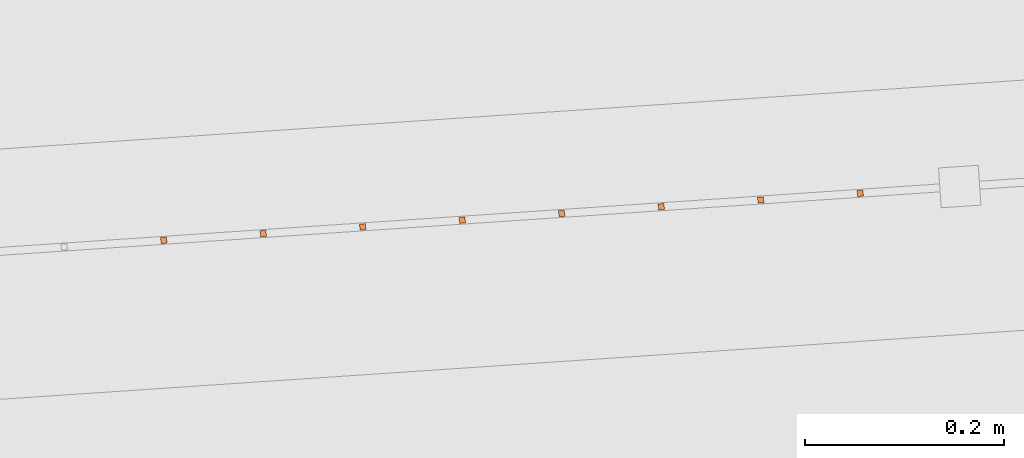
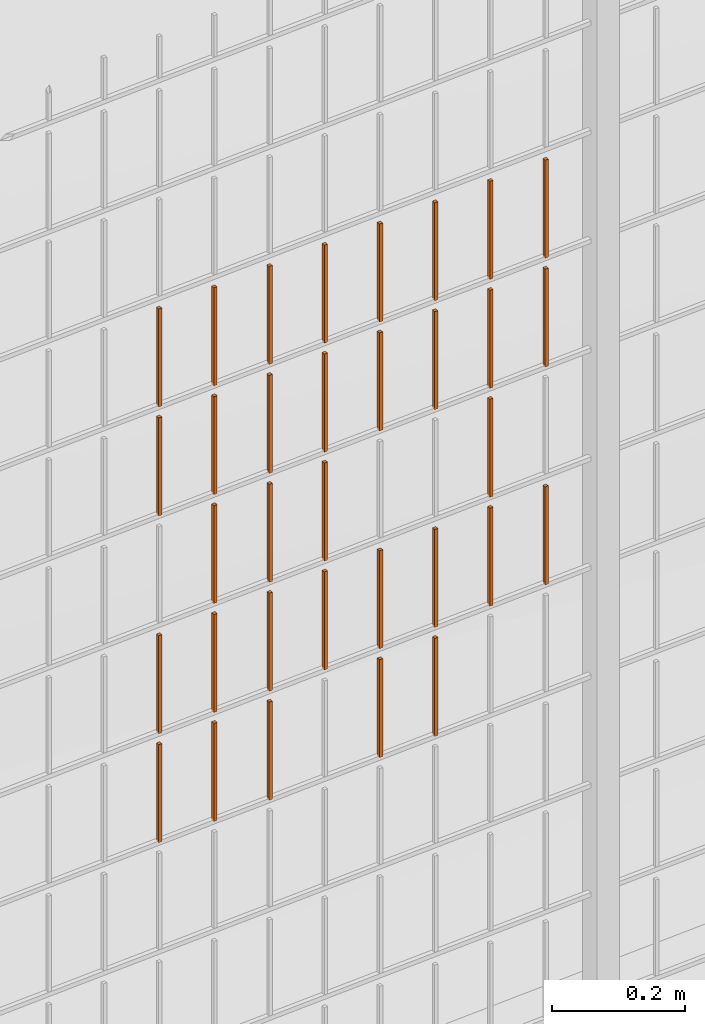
# One storey, part 393 of 1809: 33 proxies, 1 element without a shape of its own.
"""IFC2X3 building model written with IfcOpenShell, lengths in millimetres."""

import ifcopenshell
import ifcopenshell.guid

model = None  # the IFC model being written
_history = None  # IfcOwnerHistory: only IFC2X3 demands one
_inside = {}  # id of a spatial element -> (the spatial element, [elements in it])
_under = {}  # id of a project, library or spatial element -> (it, [spatial elements below it])
_declared = {}  # id of a project -> (the project, [libraries it declares])
_typed = {}  # id of a type object -> (the type object, [elements of that type])
_made_of = {}  # id of a material, layer set ... -> (it, [elements and type objects made of it])


def new_model(schema):
    """Start an empty IFC model of exactly this schema.

    Asked for "IFC4X3", IfcOpenShell would pick the latest addendum, in which some entities
    have other attributes; the version numbers below select the first issue.
    IFC2X3 requires an IfcOwnerHistory on every rooted entity: one is made here for all.
    """
    global model, _history
    if schema == "IFC4X3":
        model = ifcopenshell.file(schema_version=(4, 3, 0, 0))
    else:
        model = ifcopenshell.file(schema=schema)
    _inside.clear()
    _under.clear()
    _declared.clear()
    _typed.clear()
    _made_of.clear()
    _history = None
    if model.schema == "IFC2X3":
        org = make("IfcOrganization", Name="unknown")
        user = make(
            "IfcPersonAndOrganization",
            ThePerson=make("IfcPerson", FamilyName="unknown"),
            TheOrganization=org,
        )
        app = make(
            "IfcApplication",
            ApplicationDeveloper=org,
            Version="unknown",
            ApplicationFullName="unknown",
            ApplicationIdentifier="unknown",
        )
        _history = make(
            "IfcOwnerHistory",
            OwningUser=user,
            OwningApplication=app,
            ChangeAction="ADDED",
            CreationDate=0,
        )
    return model


def make(cls, **values):
    """One entity of the class cls with the attributes given. An attribute that is None is left unset."""
    return model.create_entity(
        cls, **{name: value for name, value in values.items() if value is not None}
    )


def entity(cls, *values):
    """Any entity or typed value of the class cls, its attributes in the order of the schema. None: left unset."""
    e = model.create_entity(cls)
    for i, value in enumerate(values):
        if value is not None:
            e[i] = value
    return e


def rooted(cls, **values):
    """An entity with a GlobalId (a new one), such as an element, a storey or a relation."""
    return make(cls, GlobalId=ifcopenshell.guid.new(), OwnerHistory=_history, **values)


def si_unit(unit_type, name, prefix=None):
    """IfcSIUnit, for example si_unit("LENGTHUNIT", "METRE", prefix="MILLI")."""
    return make("IfcSIUnit", UnitType=unit_type, Prefix=prefix, Name=name)


def converted_unit(unit_type, name, factor, base, dimensions=None, offset=None):
    """IfcConversionBasedUnit, such as the inch: factor (a typed value) times the base unit."""
    return make(
        "IfcConversionBasedUnit"
        if offset is None
        else "IfcConversionBasedUnitWithOffset",
        ConversionOffset=offset,
        Dimensions=None
        if dimensions is None
        else entity("IfcDimensionalExponents", *dimensions),
        UnitType=unit_type,
        Name=name,
        ConversionFactor=make(
            "IfcMeasureWithUnit", ValueComponent=factor, UnitComponent=base
        ),
    )


def derived_unit(unit_type, elements):
    """IfcDerivedUnit: a product of units, each with its exponent."""
    return make(
        "IfcDerivedUnit",
        Elements=[
            make("IfcDerivedUnitElement", Unit=unit, Exponent=power)
            for unit, power in elements
        ],
        UnitType=unit_type,
    )


def money_unit(currency):
    """IfcMonetaryUnit."""
    return make("IfcMonetaryUnit", Currency=currency)


def assignment(units):
    """IfcUnitAssignment: the units of a project."""
    return None if units is None else make("IfcUnitAssignment", Units=units)


def point(xyz):
    """IfcCartesianPoint."""
    return None if xyz is None else make("IfcCartesianPoint", Coordinates=xyz)


def direction(xyz):
    """IfcDirection."""
    return None if xyz is None else make("IfcDirection", DirectionRatios=xyz)


def frame(location, z_axis=None, x_axis=None):
    """IfcAxis2Placement3D, a coordinate frame: its origin and axes. An axis left out is left unset."""
    return make(
        "IfcAxis2Placement3D",
        Location=point(location),
        Axis=direction(z_axis),
        RefDirection=direction(x_axis),
    )


def origin_with_axes():
    """The frame at (0, 0, 0) with the z axis (0, 0, 1) and the x axis (1, 0, 0) written out."""
    return frame((0.0, 0.0, 0.0), z_axis=(0.0, 0.0, 1.0), x_axis=(1.0, 0.0, 0.0))


def place(relative_to, where):
    """IfcLocalPlacement: puts the frame where relative to a parent placement (None: the world)."""
    return make(
        "IfcLocalPlacement", PlacementRelTo=relative_to, RelativePlacement=where
    )


def context(
    kind, dimensions, precision=None, world=None, true_north=None, identifier=None
):
    """IfcGeometricRepresentationContext, for example the 3D "Model" context."""
    return make(
        "IfcGeometricRepresentationContext",
        ContextIdentifier=identifier,
        ContextType=kind,
        CoordinateSpaceDimension=dimensions,
        Precision=precision,
        WorldCoordinateSystem=world,
        TrueNorth=true_north,
    )


def subcontext(parent, identifier, kind, view, scale=None):
    """IfcGeometricRepresentationSubContext, for example "Body" below "Model"."""
    return make(
        "IfcGeometricRepresentationSubContext",
        ContextIdentifier=identifier,
        ContextType=kind,
        ParentContext=parent,
        TargetScale=scale,
        TargetView=view,
    )


def project(units=None, contexts=None):
    """IfcProject with its units and contexts."""
    return rooted(
        "IfcProject",
        Name="project",
        RepresentationContexts=contexts,
        UnitsInContext=assignment(units),
    )


def spatial(cls, under=None, at=None, **own):
    """A site, building, storey or space (cls), placed at a placement, below another one or the project."""
    s = rooted(cls, ObjectPlacement=at, **own)
    if under is not None:
        _under.setdefault(under.id(), (under, []))[1].append(s)
    return s


def faces_of(points, faces, orient=None, outer=None):
    """IfcFace entities. A face is a list of loops; a loop is a list of indices into points, from 0.

    orient and outer hold one flag for each loop. By default every Orientation is true, the
    first loop of a face is its IfcFaceOuterBound and the others are IfcFaceBound.
    """
    made = []
    for i, loops in enumerate(faces):
        bounds = []
        for j, loop in enumerate(loops):
            is_outer = j == 0 if outer is None else outer[i][j]
            bounds.append(
                make(
                    "IfcFaceOuterBound" if is_outer else "IfcFaceBound",
                    Bound=make("IfcPolyLoop", Polygon=[points[k] for k in loop]),
                    Orientation=True if orient is None else orient[i][j],
                )
            )
        made.append(make("IfcFace", Bounds=bounds))
    return made


def faceted_brep(points, faces, orient=None, outer=None, voids=None):
    """IfcFacetedBrep: a solid bounded by flat faces; with voids (closed shells), ...WithVoids."""
    shared = [point(p) for p in points]
    hull = make("IfcClosedShell", CfsFaces=faces_of(shared, faces, orient, outer))
    if voids is None:
        return make("IfcFacetedBrep", Outer=hull)
    return make(
        "IfcFacetedBrepWithVoids",
        Outer=hull,
        Voids=[
            make(cls, CfsFaces=faces_of(shared, fs, o, b)) for cls, fs, o, b in voids
        ],
    )


def shape(context_of_items, identifier, shape_type, items):
    """IfcShapeRepresentation: the items that make up one representation, for example the "Body"."""
    return make(
        "IfcShapeRepresentation",
        ContextOfItems=context_of_items,
        RepresentationIdentifier=identifier,
        RepresentationType=shape_type,
        Items=items,
    )


def source(mapping_origin, context_of_items, identifier, shape_type, items):
    """IfcRepresentationMap: a shape defined once, which mapped items show again and again."""
    return make(
        "IfcRepresentationMap",
        MappingOrigin=mapping_origin,
        MappedRepresentation=shape(context_of_items, identifier, shape_type, items),
    )


def transform(
    local_origin,
    x_axis=None,
    y_axis=None,
    z_axis=None,
    scale=None,
    scale2=None,
    scale3=None,
    uniform=True,
):
    """IfcCartesianTransformationOperator3D, or its non-uniform kind. x_axis, y_axis, z_axis: its Axis1, 2, 3."""
    if uniform:
        return make(
            "IfcCartesianTransformationOperator3D",
            Axis1=direction(x_axis),
            Axis2=direction(y_axis),
            LocalOrigin=point(local_origin),
            Scale=scale,
            Axis3=direction(z_axis),
        )
    return make(
        "IfcCartesianTransformationOperator3DnonUniform",
        Axis1=direction(x_axis),
        Axis2=direction(y_axis),
        LocalOrigin=point(local_origin),
        Scale=scale,
        Axis3=direction(z_axis),
        Scale2=scale2,
        Scale3=scale3,
    )


def mapped(mapping_source, mapping_target):
    """IfcMappedItem: shows the shape of a source again, moved by a transform."""
    return make(
        "IfcMappedItem", MappingSource=mapping_source, MappingTarget=mapping_target
    )


def material(Name=None, Category=None):
    """IfcMaterial."""
    return make("IfcMaterial", Name=Name, Category=Category)


def made_of(thing, what):
    """Note that an element or type object is made of a material, layer set ...; save() writes the relation."""
    if what is not None:
        _made_of.setdefault(what.id(), (what, []))[1].append(thing)
    return thing


def type_object(cls, material=None, **own):
    """A type object (cls), such as IfcWallType, which elements share."""
    return made_of(rooted(cls, **own), material)


def element(
    cls,
    number,
    at=None,
    inside=None,
    cuts=None,
    type_object=None,
    material=None,
    context=None,
    identifier="Body",
    shape_type=None,
    held_by="IfcProductDefinitionShape",
    body=None,
    shapes=None,
    **own,
):
    """One element of the class cls, such as IfcWall. Its Tag is "e" and its number.

    at: its placement. inside: the storey or other place that contains it. cuts: it is an
    opening in that element (IfcRelVoidsElement). A single representation is given by context,
    identifier, shape_type and body (its items); several are given by shapes. held_by: the class
    of the entity that holds the representations. save() writes the other relations.
    """
    e = rooted(cls, Tag="e%d" % number, ObjectPlacement=at, **own)
    if body is not None:
        shapes = [shape(context, identifier, shape_type, body)]
    if shapes is not None:
        e.Representation = make(held_by, Representations=shapes)
    if inside is not None:
        _inside.setdefault(inside.id(), (inside, []))[1].append(e)
    if cuts is not None:
        rooted(
            "IfcRelVoidsElement", RelatingBuildingElement=cuts, RelatedOpeningElement=e
        )
    if type_object is not None:
        _typed.setdefault(type_object.id(), (type_object, []))[1].append(e)
    return made_of(e, material)


def aggregate(whole, parts):
    """IfcRelAggregates: a whole, such as a stair, and the parts it consists of."""
    return rooted("IfcRelAggregates", RelatingObject=whole, RelatedObjects=parts)


def save(model, path):
    """Write the relations noted so far, then the file.

    IfcRelAggregates (storeys below a building ...), IfcRelContainedInSpatialStructure (elements
    in a storey), IfcRelDefinesByType, IfcRelAssociatesMaterial and IfcRelDeclares: one each for
    every whole, place, type object, material and project.
    """
    for whole, parts in _under.values():
        aggregate(whole, parts)
    for where, things in _inside.values():
        rooted(
            "IfcRelContainedInSpatialStructure",
            RelatedElements=things,
            RelatingStructure=where,
        )
    for kind, things in _typed.values():
        rooted("IfcRelDefinesByType", RelatedObjects=things, RelatingType=kind)
    for what, things in _made_of.values():
        rooted("IfcRelAssociatesMaterial", RelatedObjects=things, RelatingMaterial=what)
    for by, libraries in _declared.values():
        rooted("IfcRelDeclares", RelatingContext=by, RelatedDefinitions=libraries)
    model.write(path)


model = new_model("IFC2X3")

# Units and contexts
model_context = context("Model", 3, precision=0.01, world=origin_with_axes(), true_north=direction((0.0, 1.0)))
body_context = subcontext(model_context, "Body", "Model", "MODEL_VIEW")
ifc_project = project(units=[si_unit("LENGTHUNIT", "METRE", prefix="MILLI"), si_unit("AREAUNIT", "SQUARE_METRE"), si_unit("VOLUMEUNIT", "CUBIC_METRE"), converted_unit("PLANEANGLEUNIT", "DEGREE", entity("IfcPlaneAngleMeasure", 0.0174532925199), si_unit("PLANEANGLEUNIT", "RADIAN"), dimensions=[0, 0, 0, 0, 0, 0, 0]), si_unit("SOLIDANGLEUNIT", "STERADIAN"), money_unit("EUR"), converted_unit("TIMEUNIT", "Year", entity("IfcTimeMeasure", 31556926.0), si_unit("TIMEUNIT", "SECOND"), dimensions=[0, 0, 1, 0, 0, 0, 0]), si_unit("MASSUNIT", "GRAM", prefix="KILO"), si_unit("THERMODYNAMICTEMPERATUREUNIT", "DEGREE_CELSIUS"), si_unit("LUMINOUSINTENSITYUNIT", "LUMEN"), si_unit("ENERGYUNIT", "JOULE", prefix="MEGA"), derived_unit("THERMALCONDUCTANCEUNIT", [(si_unit("POWERUNIT", "WATT"), 1), (si_unit("LENGTHUNIT", "METRE"), -1), (si_unit("THERMODYNAMICTEMPERATUREUNIT", "KELVIN"), -1)]), derived_unit("SPECIFICHEATCAPACITYUNIT", [(si_unit("ENERGYUNIT", "JOULE"), 1), (si_unit("MASSUNIT", "GRAM", prefix="KILO"), -1), (si_unit("THERMODYNAMICTEMPERATUREUNIT", "KELVIN"), -1)]), derived_unit("MASSDENSITYUNIT", [(si_unit("MASSUNIT", "GRAM", prefix="KILO"), 1), (si_unit("VOLUMEUNIT", "CUBIC_METRE"), -1)])], contexts=[model_context])

# Site, building, storey
site_placement = place(None, origin_with_axes())
site = spatial("IfcSite", under=ifc_project, at=site_placement, Name="Politse- ja Piirivalveameti ning Päästeameti ühishoone", CompositionType="ELEMENT")
building_placement = place(site_placement, origin_with_axes())
building = spatial("IfcBuilding", under=site, at=building_placement, Name="Politse- ja Piirivalveameti ning Päästeameti ühishoone", CompositionType="ELEMENT")
storey_placement = place(building_placement, origin_with_axes())
storey = spatial("IfcBuildingStorey", under=building, at=storey_placement, Name="Esimene korrus", CompositionType="ELEMENT", Elevation=0.0)

# Proxies
building_element_proxy_type_1 = type_object("IfcBuildingElementProxyType", Name="Railing Type", PredefinedType="NOTDEFINED")
proxy_1_placement = place(storey_placement, frame((89252.001212, -29183.4766571, 203.661247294), z_axis=(0.0, 0.0, 1.0), x_axis=(1.0, 0.0, 0.0)))
proxy_1 = element("IfcBuildingElementProxy", 1, at=proxy_1_placement, inside=storey, type_object=building_element_proxy_type_1, Name="PIIRDEAED")
ifc_material = material(Name="ET-03_Raud")
building_element_proxy_type_2 = type_object("IfcBuildingElementProxyType", Name="IfcBuildingElementProxy", PredefinedType="NOTDEFINED")
shared_shape_1 = source(origin_with_axes(), body_context, "Body", "Brep", [
    faceted_brep([(3.0, 3.0, -0.000752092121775), (-3.0, 3.0, -0.000752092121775), (-3.0, 3.0, 179.99926046), (3.0, 3.0, 179.99926046), (3.0, -3.0, 0.000752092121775), (-3.0, -3.0, 0.000752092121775), (-3.0, -3.0, 180.000764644), (3.0, -3.0, 180.000764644)], [[[0, 1, 2, 3]], [[0, 4, 5, 1]], [[1, 5, 6, 2]], [[3, 2, 6, 7]], [[4, 0, 3, 7]], [[5, 4, 7, 6]]]),
])
proxy_2_placement = place(proxy_1_placement, frame((-12597.9815761, -18148.720874, 1424.068908), z_axis=(0.0, 0.0, 1.0), x_axis=(1.0, 0.0, 0.0)))
proxy_2 = element("IfcBuildingElementProxy", 2, at=proxy_2_placement, type_object=building_element_proxy_type_2, material=ifc_material, Name="BALUSTER - 001", context=body_context, shape_type="MappedRepresentation", body=[
    mapped(shared_shape_1, transform((0.0, 0.0, 0.0), x_axis=(-0.0673926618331, 0.997726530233, 0.0), y_axis=(-0.997726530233, -0.0673926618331, 0.0), z_axis=(0.0, 0.0, 1.0))),
])
shared_shape_2 = source(origin_with_axes(), body_context, "Body", "Brep", [
    faceted_brep([(3.0, 3.0, -0.000752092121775), (-3.0, 3.0, -0.000752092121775), (-3.0, 3.0, 179.99926046), (3.0, 3.0, 179.99926046), (3.0, -3.0, 0.000752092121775), (-3.0, -3.0, 0.000752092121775), (-3.0, -3.0, 180.000764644), (3.0, -3.0, 180.000764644)], [[[0, 1, 2, 3]], [[0, 4, 5, 1]], [[1, 5, 6, 2]], [[3, 2, 6, 7]], [[4, 0, 3, 7]], [[5, 4, 7, 6]]]),
])
proxy_3_placement = place(proxy_1_placement, frame((-12997.0721882, -18175.6779387, 623.968629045), z_axis=(0.0, 0.0, 1.0), x_axis=(1.0, 0.0, 0.0)))
proxy_3 = element("IfcBuildingElementProxy", 3, at=proxy_3_placement, type_object=building_element_proxy_type_2, material=ifc_material, Name="BALUSTER - 001", context=body_context, shape_type="MappedRepresentation", body=[
    mapped(shared_shape_2, transform((0.0, 0.0, 0.0), x_axis=(-0.0673926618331, 0.997726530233, 0.0), y_axis=(-0.997726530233, -0.0673926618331, 0.0), z_axis=(0.0, 0.0, 1.0))),
])
shared_shape_3 = source(origin_with_axes(), body_context, "Body", "Brep", [
    faceted_brep([(3.0, 3.0, -0.000752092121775), (-3.0, 3.0, -0.000752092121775), (-3.0, 3.0, 179.99926046), (3.0, 3.0, 179.99926046), (3.0, -3.0, 0.000752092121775), (-3.0, -3.0, 0.000752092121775), (-3.0, -3.0, 180.000764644), (3.0, -3.0, 180.000764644)], [[[0, 1, 2, 3]], [[0, 4, 5, 1]], [[1, 5, 6, 2]], [[3, 2, 6, 7]], [[4, 0, 3, 7]], [[5, 4, 7, 6]]]),
])
proxy_4_placement = place(proxy_1_placement, frame((-12398.4362701, -18135.2423416, 1224.11904747), z_axis=(0.0, 0.0, 1.0), x_axis=(1.0, 0.0, 0.0)))
proxy_4 = element("IfcBuildingElementProxy", 4, at=proxy_4_placement, type_object=building_element_proxy_type_2, material=ifc_material, Name="BALUSTER - 001", context=body_context, shape_type="MappedRepresentation", body=[
    mapped(shared_shape_3, transform((0.0, 0.0, 0.0), x_axis=(-0.0673926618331, 0.997726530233, 0.0), y_axis=(-0.997726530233, -0.0673926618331, 0.0), z_axis=(0.0, 0.0, 1.0))),
])
shared_shape_4 = source(origin_with_axes(), body_context, "Body", "Brep", [
    faceted_brep([(3.0, 3.0, -0.000752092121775), (-3.0, 3.0, -0.000752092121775), (-3.0, 3.0, 179.99926046), (3.0, 3.0, 179.99926046), (3.0, -3.0, 0.000752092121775), (-3.0, -3.0, 0.000752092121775), (-3.0, -3.0, 180.000764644), (3.0, -3.0, 180.000764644)], [[[0, 1, 2, 3]], [[0, 4, 5, 1]], [[1, 5, 6, 2]], [[3, 2, 6, 7]], [[4, 0, 3, 7]], [[5, 4, 7, 6]]]),
])
proxy_5_placement = place(proxy_1_placement, frame((-12597.9815761, -18148.720874, 824.068907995), z_axis=(0.0, 0.0, 1.0), x_axis=(1.0, 0.0, 0.0)))
proxy_5 = element("IfcBuildingElementProxy", 5, at=proxy_5_placement, type_object=building_element_proxy_type_2, material=ifc_material, Name="BALUSTER - 001", context=body_context, shape_type="MappedRepresentation", body=[
    mapped(shared_shape_4, transform((0.0, 0.0, 0.0), x_axis=(-0.0673926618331, 0.997726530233, 0.0), y_axis=(-0.997726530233, -0.0673926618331, 0.0), z_axis=(0.0, 0.0, 1.0))),
])
proxy_6_placement = place(proxy_1_placement, frame((-12597.9815761, -18148.720874, 1224.068908), z_axis=(0.0, 0.0, 1.0), x_axis=(1.0, 0.0, 0.0)))
proxy_6 = element("IfcBuildingElementProxy", 6, at=proxy_6_placement, type_object=building_element_proxy_type_2, material=ifc_material, Name="BALUSTER - 001", context=body_context, shape_type="MappedRepresentation", body=[
    mapped(shared_shape_4, transform((0.0, 0.0, 0.0), x_axis=(-0.0673926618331, 0.997726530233, 0.0), y_axis=(-0.997726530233, -0.0673926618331, 0.0), z_axis=(0.0, 0.0, 1.0))),
])
shared_shape_5 = source(origin_with_axes(), body_context, "Body", "Brep", [
    faceted_brep([(3.0, 3.0, -0.000752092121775), (-3.0, 3.0, -0.000752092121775), (-3.0, 3.0, 179.99926046), (3.0, 3.0, 179.99926046), (3.0, -3.0, 0.000752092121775), (-3.0, -3.0, 0.000752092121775), (-3.0, -3.0, 180.000764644), (3.0, -3.0, 180.000764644)], [[[0, 1, 2, 3]], [[0, 4, 5, 1]], [[1, 5, 6, 2]], [[3, 2, 6, 7]], [[4, 0, 3, 7]], [[5, 4, 7, 6]]]),
])
proxy_7_placement = place(proxy_1_placement, frame((-13096.8448412, -18182.4172049, 623.943559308), z_axis=(0.0, 0.0, 1.0), x_axis=(1.0, 0.0, 0.0)))
proxy_7 = element("IfcBuildingElementProxy", 7, at=proxy_7_placement, type_object=building_element_proxy_type_2, material=ifc_material, Name="BALUSTER - 001", context=body_context, shape_type="MappedRepresentation", body=[
    mapped(shared_shape_5, transform((0.0, 0.0, 0.0), x_axis=(-0.0673926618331, 0.997726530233, 0.0), y_axis=(-0.997726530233, -0.0673926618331, 0.0), z_axis=(0.0, 0.0, 1.0))),
])
shared_shape_6 = source(origin_with_axes(), body_context, "Body", "Brep", [
    faceted_brep([(3.0, 3.0, -0.000752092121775), (-3.0, 3.0, -0.000752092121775), (-3.0, 3.0, 179.99926046), (3.0, 3.0, 179.99926046), (3.0, -3.0, 0.000752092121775), (-3.0, -3.0, 0.000752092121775), (-3.0, -3.0, 180.000764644), (3.0, -3.0, 180.000764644)], [[[0, 1, 2, 3]], [[0, 4, 5, 1]], [[1, 5, 6, 2]], [[3, 2, 6, 7]], [[4, 0, 3, 7]], [[5, 4, 7, 6]]]),
])
proxy_8_placement = place(proxy_1_placement, frame((-12398.4362701, -18135.2423416, 824.11904747), z_axis=(0.0, 0.0, 1.0), x_axis=(1.0, 0.0, 0.0)))
proxy_8 = element("IfcBuildingElementProxy", 8, at=proxy_8_placement, type_object=building_element_proxy_type_2, material=ifc_material, Name="BALUSTER - 001", context=body_context, shape_type="MappedRepresentation", body=[
    mapped(shared_shape_6, transform((0.0, 0.0, 0.0), x_axis=(-0.0673926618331, 0.997726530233, 0.0), y_axis=(-0.997726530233, -0.0673926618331, 0.0), z_axis=(0.0, 0.0, 1.0))),
])
shared_shape_7 = source(origin_with_axes(), body_context, "Body", "Brep", [
    faceted_brep([(3.0, 3.0, -0.000752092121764), (-3.0, 3.0, -0.000752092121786), (-3.0, 3.0, 179.99926046), (3.0, 3.0, 179.99926046), (3.0, -3.0, 0.000752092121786), (-3.0, -3.0, 0.000752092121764), (-3.0, -3.0, 180.000764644), (3.0, -3.0, 180.000764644)], [[[0, 1, 2, 3]], [[0, 4, 5, 1]], [[1, 5, 6, 2]], [[3, 2, 6, 7]], [[4, 0, 3, 7]], [[5, 4, 7, 6]]]),
])
proxy_9_placement = place(proxy_1_placement, frame((-12498.2089231, -18141.9816078, 824.093977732), z_axis=(0.0, 0.0, 1.0), x_axis=(1.0, 0.0, 0.0)))
proxy_9 = element("IfcBuildingElementProxy", 9, at=proxy_9_placement, type_object=building_element_proxy_type_2, material=ifc_material, Name="BALUSTER - 001", context=body_context, shape_type="MappedRepresentation", body=[
    mapped(shared_shape_7, transform((0.0, 0.0, 0.0), x_axis=(-0.0673926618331, 0.997726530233, 0.0), y_axis=(-0.997726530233, -0.0673926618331, 0.0), z_axis=(0.0, 0.0, 1.0))),
])
proxy_10_placement = place(proxy_1_placement, frame((-12797.5268822, -18162.1994064, 824.01876852), z_axis=(0.0, 0.0, 1.0), x_axis=(1.0, 0.0, 0.0)))
proxy_10 = element("IfcBuildingElementProxy", 10, at=proxy_10_placement, type_object=building_element_proxy_type_2, material=ifc_material, Name="BALUSTER - 001", context=body_context, shape_type="MappedRepresentation", body=[
    mapped(shared_shape_7, transform((0.0, 0.0, 0.0), x_axis=(-0.0673926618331, 0.997726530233, 0.0), y_axis=(-0.997726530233, -0.0673926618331, 0.0), z_axis=(0.0, 0.0, 1.0))),
])
proxy_11_placement = place(proxy_1_placement, frame((-12797.5268822, -18162.1994064, 1224.01876852), z_axis=(0.0, 0.0, 1.0), x_axis=(1.0, 0.0, 0.0)))
proxy_11 = element("IfcBuildingElementProxy", 11, at=proxy_11_placement, type_object=building_element_proxy_type_2, material=ifc_material, Name="BALUSTER - 001", context=body_context, shape_type="MappedRepresentation", body=[
    mapped(shared_shape_7, transform((0.0, 0.0, 0.0), x_axis=(-0.0673926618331, 0.997726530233, 0.0), y_axis=(-0.997726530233, -0.0673926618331, 0.0), z_axis=(0.0, 0.0, 1.0))),
])
shared_shape_8 = source(origin_with_axes(), body_context, "Body", "Brep", [
    faceted_brep([(3.0, 3.0, -0.000752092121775), (-3.0, 3.0, -0.000752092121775), (-3.0, 3.0, 179.99926046), (3.0, 3.0, 179.99926046), (3.0, -3.0, 0.000752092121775), (-3.0, -3.0, 0.000752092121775), (-3.0, -3.0, 180.000764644), (3.0, -3.0, 180.000764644)], [[[0, 1, 2, 3]], [[0, 4, 5, 1]], [[1, 5, 6, 2]], [[3, 2, 6, 7]], [[4, 0, 3, 7]], [[5, 4, 7, 6]]]),
])
proxy_12_placement = place(proxy_1_placement, frame((-12997.0721882, -18175.6779387, 823.968629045), z_axis=(0.0, 0.0, 1.0), x_axis=(1.0, 0.0, 0.0)))
proxy_12 = element("IfcBuildingElementProxy", 12, at=proxy_12_placement, type_object=building_element_proxy_type_2, material=ifc_material, Name="BALUSTER - 001", context=body_context, shape_type="MappedRepresentation", body=[
    mapped(shared_shape_8, transform((0.0, 0.0, 0.0), x_axis=(-0.0673926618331, 0.997726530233, 0.0), y_axis=(-0.997726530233, -0.0673926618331, 0.0), z_axis=(0.0, 0.0, 1.0))),
])
shared_shape_9 = source(origin_with_axes(), body_context, "Body", "Brep", [
    faceted_brep([(3.0, 3.0, -0.000752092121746), (-3.0, 3.0, -0.000752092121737), (-3.00000000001, 2.99999999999, 179.99926046), (2.99999999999, 2.99999999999, 179.99926046), (3.0, -3.0, 0.000752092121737), (-3.0, -3.0, 0.000752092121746), (-3.00000000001, -3.00000000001, 180.000764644), (2.99999999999, -3.00000000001, 180.000764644)], [[[0, 1, 2, 3]], [[0, 4, 5, 1]], [[1, 5, 6, 2]], [[3, 2, 6, 7]], [[4, 0, 3, 7]], [[5, 4, 7, 6]]]),
])
proxy_13_placement = place(proxy_1_placement, frame((-12997.0721882, -18175.6779387, 1023.96862905), z_axis=(0.0, 0.0, 1.0), x_axis=(1.0, 0.0, 0.0)))
proxy_13 = element("IfcBuildingElementProxy", 13, at=proxy_13_placement, type_object=building_element_proxy_type_2, material=ifc_material, Name="BALUSTER - 001", context=body_context, shape_type="MappedRepresentation", body=[
    mapped(shared_shape_9, transform((0.0, 0.0, 0.0), x_axis=(-0.0673926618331, 0.997726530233, 0.0), y_axis=(-0.997726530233, -0.0673926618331, 0.0), z_axis=(0.0, 0.0, 1.0))),
])
shared_shape_10 = source(origin_with_axes(), body_context, "Body", "Brep", [
    faceted_brep([(3.0, 3.0, -0.000752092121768), (-3.0, 3.0, -0.000752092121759), (-3.00000000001, 2.99999999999, 179.99926046), (2.99999999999, 2.99999999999, 179.99926046), (3.0, -3.0, 0.000752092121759), (-3.0, -3.0, 0.000752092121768), (-3.00000000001, -3.00000000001, 180.000764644), (2.99999999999, -3.00000000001, 180.000764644)], [[[0, 1, 2, 3]], [[0, 4, 5, 1]], [[1, 5, 6, 2]], [[3, 2, 6, 7]], [[4, 0, 3, 7]], [[5, 4, 7, 6]]]),
])
proxy_14_placement = place(proxy_1_placement, frame((-12498.2089231, -18141.9816078, 1024.09397773), z_axis=(0.0, 0.0, 1.0), x_axis=(1.0, 0.0, 0.0)))
proxy_14 = element("IfcBuildingElementProxy", 14, at=proxy_14_placement, type_object=building_element_proxy_type_2, material=ifc_material, Name="BALUSTER - 001", context=body_context, shape_type="MappedRepresentation", body=[
    mapped(shared_shape_10, transform((0.0, 0.0, 0.0), x_axis=(-0.0673926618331, 0.997726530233, 0.0), y_axis=(-0.997726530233, -0.0673926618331, 0.0), z_axis=(0.0, 0.0, 1.0))),
])
shared_shape_11 = source(origin_with_axes(), body_context, "Body", "Brep", [
    faceted_brep([(3.0, 3.0, -0.000752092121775), (-3.0, 3.0, -0.000752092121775), (-3.0, 3.0, 179.99926046), (3.0, 3.0, 179.99926046), (3.0, -3.0, 0.000752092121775), (-3.0, -3.0, 0.000752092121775), (-3.0, -3.0, 180.000764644), (3.0, -3.0, 180.000764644)], [[[0, 1, 2, 3]], [[0, 4, 5, 1]], [[1, 5, 6, 2]], [[3, 2, 6, 7]], [[4, 0, 3, 7]], [[5, 4, 7, 6]]]),
])
proxy_15_placement = place(proxy_1_placement, frame((-13096.8448412, -18182.4172049, 823.943559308), z_axis=(0.0, 0.0, 1.0), x_axis=(1.0, 0.0, 0.0)))
proxy_15 = element("IfcBuildingElementProxy", 15, at=proxy_15_placement, type_object=building_element_proxy_type_2, material=ifc_material, Name="BALUSTER - 001", context=body_context, shape_type="MappedRepresentation", body=[
    mapped(shared_shape_11, transform((0.0, 0.0, 0.0), x_axis=(-0.0673926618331, 0.997726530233, 0.0), y_axis=(-0.997726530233, -0.0673926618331, 0.0), z_axis=(0.0, 0.0, 1.0))),
])
proxy_16_placement = place(proxy_1_placement, frame((-12997.0721882, -18175.6779387, 1223.96862905), z_axis=(0.0, 0.0, 1.0), x_axis=(1.0, 0.0, 0.0)))
proxy_16 = element("IfcBuildingElementProxy", 16, at=proxy_16_placement, type_object=building_element_proxy_type_2, material=ifc_material, Name="BALUSTER - 001", context=body_context, shape_type="MappedRepresentation", body=[
    mapped(shared_shape_11, transform((0.0, 0.0, 0.0), x_axis=(-0.0673926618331, 0.997726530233, 0.0), y_axis=(-0.997726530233, -0.0673926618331, 0.0), z_axis=(0.0, 0.0, 1.0))),
])
shared_shape_12 = source(origin_with_axes(), body_context, "Body", "Brep", [
    faceted_brep([(3.0, 3.0, -0.000752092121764), (-3.0, 3.0, -0.000752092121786), (-3.0, 3.0, 179.99926046), (3.0, 3.0, 179.99926046), (3.0, -3.0, 0.000752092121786), (-3.0, -3.0, 0.000752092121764), (-3.0, -3.0, 180.000764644), (3.0, -3.0, 180.000764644)], [[[0, 1, 2, 3]], [[0, 4, 5, 1]], [[1, 5, 6, 2]], [[3, 2, 6, 7]], [[4, 0, 3, 7]], [[5, 4, 7, 6]]]),
])
proxy_17_placement = place(proxy_1_placement, frame((-12697.7542291, -18155.4601402, 1224.04383826), z_axis=(0.0, 0.0, 1.0), x_axis=(1.0, 0.0, 0.0)))
proxy_17 = element("IfcBuildingElementProxy", 17, at=proxy_17_placement, type_object=building_element_proxy_type_2, material=ifc_material, Name="BALUSTER - 001", context=body_context, shape_type="MappedRepresentation", body=[
    mapped(shared_shape_12, transform((0.0, 0.0, 0.0), x_axis=(-0.0673926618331, 0.997726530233, 0.0), y_axis=(-0.997726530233, -0.0673926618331, 0.0), z_axis=(0.0, 0.0, 1.0))),
])
shared_shape_13 = source(origin_with_axes(), body_context, "Body", "Brep", [
    faceted_brep([(3.0, 3.0, -0.000752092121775), (-3.0, 3.0, -0.000752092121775), (-3.0, 3.0, 179.99926046), (3.0, 3.0, 179.99926046), (3.0, -3.0, 0.000752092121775), (-3.0, -3.0, 0.000752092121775), (-3.0, -3.0, 180.000764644), (3.0, -3.0, 180.000764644)], [[[0, 1, 2, 3]], [[0, 4, 5, 1]], [[1, 5, 6, 2]], [[3, 2, 6, 7]], [[4, 0, 3, 7]], [[5, 4, 7, 6]]]),
])
proxy_18_placement = place(proxy_1_placement, frame((-12997.0721882, -18175.6779387, 1423.96862905), z_axis=(0.0, 0.0, 1.0), x_axis=(1.0, 0.0, 0.0)))
proxy_18 = element("IfcBuildingElementProxy", 18, at=proxy_18_placement, type_object=building_element_proxy_type_2, material=ifc_material, Name="BALUSTER - 001", context=body_context, shape_type="MappedRepresentation", body=[
    mapped(shared_shape_13, transform((0.0, 0.0, 0.0), x_axis=(-0.0673926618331, 0.997726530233, 0.0), y_axis=(-0.997726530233, -0.0673926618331, 0.0), z_axis=(0.0, 0.0, 1.0))),
])
shared_shape_14 = source(origin_with_axes(), body_context, "Body", "Brep", [
    faceted_brep([(3.0, 3.0, -0.000752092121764), (-3.0, 3.0, -0.000752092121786), (-3.0, 3.0, 179.99926046), (3.0, 3.0, 179.99926046), (3.0, -3.0, 0.000752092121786), (-3.0, -3.0, 0.000752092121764), (-3.0, -3.0, 180.000764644), (3.0, -3.0, 180.000764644)], [[[0, 1, 2, 3]], [[0, 4, 5, 1]], [[1, 5, 6, 2]], [[3, 2, 6, 7]], [[4, 0, 3, 7]], [[5, 4, 7, 6]]]),
])
proxy_19_placement = place(proxy_1_placement, frame((-12797.5268822, -18162.1994064, 1424.01876852), z_axis=(0.0, 0.0, 1.0), x_axis=(1.0, 0.0, 0.0)))
proxy_19 = element("IfcBuildingElementProxy", 19, at=proxy_19_placement, type_object=building_element_proxy_type_2, material=ifc_material, Name="BALUSTER - 001", context=body_context, shape_type="MappedRepresentation", body=[
    mapped(shared_shape_14, transform((0.0, 0.0, 0.0), x_axis=(-0.0673926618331, 0.997726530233, 0.0), y_axis=(-0.997726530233, -0.0673926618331, 0.0), z_axis=(0.0, 0.0, 1.0))),
])
shared_shape_15 = source(origin_with_axes(), body_context, "Body", "Brep", [
    faceted_brep([(3.0, 3.0, -0.000752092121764), (-3.0, 3.0, -0.000752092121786), (-3.0, 3.0, 179.99926046), (3.0, 3.0, 179.99926046), (3.0, -3.0, 0.000752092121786), (-3.0, -3.0, 0.000752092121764), (-3.0, -3.0, 180.000764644), (3.0, -3.0, 180.000764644)], [[[0, 1, 2, 3]], [[0, 4, 5, 1]], [[1, 5, 6, 2]], [[3, 2, 6, 7]], [[4, 0, 3, 7]], [[5, 4, 7, 6]]]),
])
proxy_20_placement = place(proxy_1_placement, frame((-12697.7542291, -18155.4601402, 1424.04383826), z_axis=(0.0, 0.0, 1.0), x_axis=(1.0, 0.0, 0.0)))
proxy_20 = element("IfcBuildingElementProxy", 20, at=proxy_20_placement, type_object=building_element_proxy_type_2, material=ifc_material, Name="BALUSTER - 001", context=body_context, shape_type="MappedRepresentation", body=[
    mapped(shared_shape_15, transform((0.0, 0.0, 0.0), x_axis=(-0.0673926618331, 0.997726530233, 0.0), y_axis=(-0.997726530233, -0.0673926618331, 0.0), z_axis=(0.0, 0.0, 1.0))),
])
shared_shape_16 = source(origin_with_axes(), body_context, "Body", "Brep", [
    faceted_brep([(3.0, 3.0, -0.000752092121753), (-3.0, 3.0, -0.000752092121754), (-3.0, 3.0, 179.99926046), (3.0, 3.0, 179.99926046), (3.0, -3.0, 0.000752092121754), (-3.0, -3.0, 0.000752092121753), (-3.0, -3.0, 180.000764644), (3.0, -3.0, 180.000764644)], [[[0, 1, 2, 3]], [[0, 4, 5, 1]], [[1, 5, 6, 2]], [[3, 2, 6, 7]], [[4, 0, 3, 7]], [[5, 4, 7, 6]]]),
])
proxy_21_placement = place(proxy_1_placement, frame((-13096.8448412, -18182.4172049, 1223.94355931), z_axis=(0.0, 0.0, 1.0), x_axis=(1.0, 0.0, 0.0)))
proxy_21 = element("IfcBuildingElementProxy", 21, at=proxy_21_placement, type_object=building_element_proxy_type_2, material=ifc_material, Name="BALUSTER - 001", context=body_context, shape_type="MappedRepresentation", body=[
    mapped(shared_shape_16, transform((0.0, 0.0, 0.0), x_axis=(-0.0673926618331, 0.997726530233, 0.0), y_axis=(-0.997726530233, -0.0673926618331, 0.0), z_axis=(0.0, 0.0, 1.0))),
])
shared_shape_17 = source(origin_with_axes(), body_context, "Body", "Brep", [
    faceted_brep([(3.0, 3.0, -0.000752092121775), (-3.0, 3.0, -0.000752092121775), (-3.0, 3.0, 179.99926046), (3.0, 3.0, 179.99926046), (3.0, -3.0, 0.000752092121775), (-3.0, -3.0, 0.000752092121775), (-3.0, -3.0, 180.000764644), (3.0, -3.0, 180.000764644)], [[[0, 1, 2, 3]], [[0, 4, 5, 1]], [[1, 5, 6, 2]], [[3, 2, 6, 7]], [[4, 0, 3, 7]], [[5, 4, 7, 6]]]),
])
proxy_22_placement = place(proxy_1_placement, frame((-12398.4362701, -18135.2423416, 1424.11904747), z_axis=(0.0, 0.0, 1.0), x_axis=(1.0, 0.0, 0.0)))
proxy_22 = element("IfcBuildingElementProxy", 22, at=proxy_22_placement, type_object=building_element_proxy_type_2, material=ifc_material, Name="BALUSTER - 001", context=body_context, shape_type="MappedRepresentation", body=[
    mapped(shared_shape_17, transform((0.0, 0.0, 0.0), x_axis=(-0.0673926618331, 0.997726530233, 0.0), y_axis=(-0.997726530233, -0.0673926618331, 0.0), z_axis=(0.0, 0.0, 1.0))),
])
shared_shape_18 = source(origin_with_axes(), body_context, "Body", "Brep", [
    faceted_brep([(3.0, 3.0, -0.000752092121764), (-3.0, 3.0, -0.000752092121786), (-3.0, 3.0, 179.99926046), (3.0, 3.0, 179.99926046), (3.0, -3.0, 0.000752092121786), (-3.0, -3.0, 0.000752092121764), (-3.0, -3.0, 180.000764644), (3.0, -3.0, 180.000764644)], [[[0, 1, 2, 3]], [[0, 4, 5, 1]], [[1, 5, 6, 2]], [[3, 2, 6, 7]], [[4, 0, 3, 7]], [[5, 4, 7, 6]]]),
])
proxy_23_placement = place(proxy_1_placement, frame((-12697.7542291, -18155.4601402, 624.043838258), z_axis=(0.0, 0.0, 1.0), x_axis=(1.0, 0.0, 0.0)))
proxy_23 = element("IfcBuildingElementProxy", 23, at=proxy_23_placement, type_object=building_element_proxy_type_2, material=ifc_material, Name="BALUSTER - 001", context=body_context, shape_type="MappedRepresentation", body=[
    mapped(shared_shape_18, transform((0.0, 0.0, 0.0), x_axis=(-0.0673926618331, 0.997726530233, 0.0), y_axis=(-0.997726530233, -0.0673926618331, 0.0), z_axis=(0.0, 0.0, 1.0))),
])
shared_shape_19 = source(origin_with_axes(), body_context, "Body", "Brep", [
    faceted_brep([(3.0, 3.0, -0.000752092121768), (-3.0, 3.0, -0.000752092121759), (-3.00000000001, 2.99999999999, 179.99926046), (2.99999999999, 2.99999999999, 179.99926046), (3.0, -3.0, 0.000752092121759), (-3.0, -3.0, 0.000752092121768), (-3.00000000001, -3.00000000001, 180.000764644), (2.99999999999, -3.00000000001, 180.000764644)], [[[0, 1, 2, 3]], [[0, 4, 5, 1]], [[1, 5, 6, 2]], [[3, 2, 6, 7]], [[4, 0, 3, 7]], [[5, 4, 7, 6]]]),
])
proxy_24_placement = place(proxy_1_placement, frame((-12797.5268822, -18162.1994064, 1024.01876852), z_axis=(0.0, 0.0, 1.0), x_axis=(1.0, 0.0, 0.0)))
proxy_24 = element("IfcBuildingElementProxy", 24, at=proxy_24_placement, type_object=building_element_proxy_type_2, material=ifc_material, Name="BALUSTER - 001", context=body_context, shape_type="MappedRepresentation", body=[
    mapped(shared_shape_19, transform((0.0, 0.0, 0.0), x_axis=(-0.0673926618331, 0.997726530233, 0.0), y_axis=(-0.997726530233, -0.0673926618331, 0.0), z_axis=(0.0, 0.0, 1.0))),
])
shared_shape_20 = source(origin_with_axes(), body_context, "Body", "Brep", [
    faceted_brep([(3.0, 3.0, -0.000752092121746), (-3.0, 3.0, -0.000752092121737), (-3.00000000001, 2.99999999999, 179.99926046), (2.99999999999, 2.99999999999, 179.99926046), (3.0, -3.0, 0.000752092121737), (-3.0, -3.0, 0.000752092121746), (-3.00000000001, -3.00000000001, 180.000764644), (2.99999999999, -3.00000000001, 180.000764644)], [[[0, 1, 2, 3]], [[0, 4, 5, 1]], [[1, 5, 6, 2]], [[3, 2, 6, 7]], [[4, 0, 3, 7]], [[5, 4, 7, 6]]]),
])
proxy_25_placement = place(proxy_1_placement, frame((-12897.2995352, -18168.9386726, 1023.99369878), z_axis=(0.0, 0.0, 1.0), x_axis=(1.0, 0.0, 0.0)))
proxy_25 = element("IfcBuildingElementProxy", 25, at=proxy_25_placement, type_object=building_element_proxy_type_2, material=ifc_material, Name="BALUSTER - 001", context=body_context, shape_type="MappedRepresentation", body=[
    mapped(shared_shape_20, transform((0.0, 0.0, 0.0), x_axis=(-0.0673926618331, 0.997726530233, 0.0), y_axis=(-0.997726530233, -0.0673926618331, 0.0), z_axis=(0.0, 0.0, 1.0))),
])
shared_shape_21 = source(origin_with_axes(), body_context, "Body", "Brep", [
    faceted_brep([(3.0, 3.0, -0.000752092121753), (-3.0, 3.0, -0.000752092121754), (-3.0, 3.0, 179.99926046), (3.0, 3.0, 179.99926046), (3.0, -3.0, 0.000752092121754), (-3.0, -3.0, 0.000752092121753), (-3.0, -3.0, 180.000764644), (3.0, -3.0, 180.000764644)], [[[0, 1, 2, 3]], [[0, 4, 5, 1]], [[1, 5, 6, 2]], [[3, 2, 6, 7]], [[4, 0, 3, 7]], [[5, 4, 7, 6]]]),
])
proxy_26_placement = place(proxy_1_placement, frame((-13096.8448412, -18182.4172049, 1423.94355931), z_axis=(0.0, 0.0, 1.0), x_axis=(1.0, 0.0, 0.0)))
proxy_26 = element("IfcBuildingElementProxy", 26, at=proxy_26_placement, type_object=building_element_proxy_type_2, material=ifc_material, Name="BALUSTER - 001", context=body_context, shape_type="MappedRepresentation", body=[
    mapped(shared_shape_21, transform((0.0, 0.0, 0.0), x_axis=(-0.0673926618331, 0.997726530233, 0.0), y_axis=(-0.997726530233, -0.0673926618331, 0.0), z_axis=(0.0, 0.0, 1.0))),
])
shared_shape_22 = source(origin_with_axes(), body_context, "Body", "Brep", [
    faceted_brep([(3.0, 3.0, -0.000752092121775), (-3.0, 3.0, -0.000752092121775), (-3.0, 3.0, 179.99926046), (3.0, 3.0, 179.99926046), (3.0, -3.0, 0.000752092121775), (-3.0, -3.0, 0.000752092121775), (-3.0, -3.0, 180.000764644), (3.0, -3.0, 180.000764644)], [[[0, 1, 2, 3]], [[0, 4, 5, 1]], [[1, 5, 6, 2]], [[3, 2, 6, 7]], [[4, 0, 3, 7]], [[5, 4, 7, 6]]]),
])
proxy_27_placement = place(proxy_1_placement, frame((-12597.9815761, -18148.720874, 624.068907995), z_axis=(0.0, 0.0, 1.0), x_axis=(1.0, 0.0, 0.0)))
proxy_27 = element("IfcBuildingElementProxy", 27, at=proxy_27_placement, type_object=building_element_proxy_type_2, material=ifc_material, Name="BALUSTER - 001", context=body_context, shape_type="MappedRepresentation", body=[
    mapped(shared_shape_22, transform((0.0, 0.0, 0.0), x_axis=(-0.0673926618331, 0.997726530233, 0.0), y_axis=(-0.997726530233, -0.0673926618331, 0.0), z_axis=(0.0, 0.0, 1.0))),
])
shared_shape_23 = source(origin_with_axes(), body_context, "Body", "Brep", [
    faceted_brep([(3.0, 3.0, -0.000752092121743), (-3.0, 3.0, -0.000752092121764), (-3.0, 3.0, 179.99926046), (3.0, 3.0, 179.99926046), (3.0, -3.0, 0.000752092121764), (-3.0, -3.0, 0.000752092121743), (-3.0, -3.0, 180.000764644), (3.0, -3.0, 180.000764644)], [[[0, 1, 2, 3]], [[0, 4, 5, 1]], [[1, 5, 6, 2]], [[3, 2, 6, 7]], [[4, 0, 3, 7]], [[5, 4, 7, 6]]]),
])
proxy_28_placement = place(proxy_1_placement, frame((-12897.2995352, -18168.9386726, 623.993698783), z_axis=(0.0, 0.0, 1.0), x_axis=(1.0, 0.0, 0.0)))
proxy_28 = element("IfcBuildingElementProxy", 28, at=proxy_28_placement, type_object=building_element_proxy_type_2, material=ifc_material, Name="BALUSTER - 001", context=body_context, shape_type="MappedRepresentation", body=[
    mapped(shared_shape_23, transform((0.0, 0.0, 0.0), x_axis=(-0.0673926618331, 0.997726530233, 0.0), y_axis=(-0.997726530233, -0.0673926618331, 0.0), z_axis=(0.0, 0.0, 1.0))),
])
shared_shape_24 = source(origin_with_axes(), body_context, "Body", "Brep", [
    faceted_brep([(3.0, 3.0, -0.000752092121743), (-3.0, 3.0, -0.000752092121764), (-3.0, 3.0, 179.99926046), (3.0, 3.0, 179.99926046), (3.0, -3.0, 0.000752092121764), (-3.0, -3.0, 0.000752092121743), (-3.0, -3.0, 180.000764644), (3.0, -3.0, 180.000764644)], [[[0, 1, 2, 3]], [[0, 4, 5, 1]], [[1, 5, 6, 2]], [[3, 2, 6, 7]], [[4, 0, 3, 7]], [[5, 4, 7, 6]]]),
])
proxy_29_placement = place(proxy_1_placement, frame((-12897.2995352, -18168.9386726, 823.993698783), z_axis=(0.0, 0.0, 1.0), x_axis=(1.0, 0.0, 0.0)))
proxy_29 = element("IfcBuildingElementProxy", 29, at=proxy_29_placement, type_object=building_element_proxy_type_2, material=ifc_material, Name="BALUSTER - 001", context=body_context, shape_type="MappedRepresentation", body=[
    mapped(shared_shape_24, transform((0.0, 0.0, 0.0), x_axis=(-0.0673926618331, 0.997726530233, 0.0), y_axis=(-0.997726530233, -0.0673926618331, 0.0), z_axis=(0.0, 0.0, 1.0))),
])
proxy_30_placement = place(proxy_1_placement, frame((-12897.2995352, -18168.9386726, 1223.99369878), z_axis=(0.0, 0.0, 1.0), x_axis=(1.0, 0.0, 0.0)))
proxy_30 = element("IfcBuildingElementProxy", 30, at=proxy_30_placement, type_object=building_element_proxy_type_2, material=ifc_material, Name="BALUSTER - 001", context=body_context, shape_type="MappedRepresentation", body=[
    mapped(shared_shape_24, transform((0.0, 0.0, 0.0), x_axis=(-0.0673926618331, 0.997726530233, 0.0), y_axis=(-0.997726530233, -0.0673926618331, 0.0), z_axis=(0.0, 0.0, 1.0))),
])
shared_shape_25 = source(origin_with_axes(), body_context, "Body", "Brep", [
    faceted_brep([(3.0, 3.0, -0.000752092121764), (-3.0, 3.0, -0.000752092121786), (-3.0, 3.0, 179.99926046), (3.0, 3.0, 179.99926046), (3.0, -3.0, 0.000752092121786), (-3.0, -3.0, 0.000752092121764), (-3.0, -3.0, 180.000764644), (3.0, -3.0, 180.000764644)], [[[0, 1, 2, 3]], [[0, 4, 5, 1]], [[1, 5, 6, 2]], [[3, 2, 6, 7]], [[4, 0, 3, 7]], [[5, 4, 7, 6]]]),
])
proxy_31_placement = place(proxy_1_placement, frame((-12498.2089231, -18141.9816078, 1224.09397773), z_axis=(0.0, 0.0, 1.0), x_axis=(1.0, 0.0, 0.0)))
proxy_31 = element("IfcBuildingElementProxy", 31, at=proxy_31_placement, type_object=building_element_proxy_type_2, material=ifc_material, Name="BALUSTER - 001", context=body_context, shape_type="MappedRepresentation", body=[
    mapped(shared_shape_25, transform((0.0, 0.0, 0.0), x_axis=(-0.0673926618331, 0.997726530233, 0.0), y_axis=(-0.997726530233, -0.0673926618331, 0.0), z_axis=(0.0, 0.0, 1.0))),
])
shared_shape_26 = source(origin_with_axes(), body_context, "Body", "Brep", [
    faceted_brep([(3.0, 3.0, -0.000752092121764), (-3.0, 3.0, -0.000752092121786), (-3.0, 3.0, 179.99926046), (3.0, 3.0, 179.99926046), (3.0, -3.0, 0.000752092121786), (-3.0, -3.0, 0.000752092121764), (-3.0, -3.0, 180.000764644), (3.0, -3.0, 180.000764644)], [[[0, 1, 2, 3]], [[0, 4, 5, 1]], [[1, 5, 6, 2]], [[3, 2, 6, 7]], [[4, 0, 3, 7]], [[5, 4, 7, 6]]]),
])
proxy_32_placement = place(proxy_1_placement, frame((-12498.2089231, -18141.9816078, 1424.09397773), z_axis=(0.0, 0.0, 1.0), x_axis=(1.0, 0.0, 0.0)))
proxy_32 = element("IfcBuildingElementProxy", 32, at=proxy_32_placement, type_object=building_element_proxy_type_2, material=ifc_material, Name="BALUSTER - 001", context=body_context, shape_type="MappedRepresentation", body=[
    mapped(shared_shape_26, transform((0.0, 0.0, 0.0), x_axis=(-0.0673926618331, 0.997726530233, 0.0), y_axis=(-0.997726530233, -0.0673926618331, 0.0), z_axis=(0.0, 0.0, 1.0))),
])
shared_shape_27 = source(origin_with_axes(), body_context, "Body", "Brep", [
    faceted_brep([(3.0, 3.0, -0.000752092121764), (-3.0, 3.0, -0.000752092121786), (-3.0, 3.0, 179.99926046), (3.0, 3.0, 179.99926046), (3.0, -3.0, 0.000752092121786), (-3.0, -3.0, 0.000752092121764), (-3.0, -3.0, 180.000764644), (3.0, -3.0, 180.000764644)], [[[0, 1, 2, 3]], [[0, 4, 5, 1]], [[1, 5, 6, 2]], [[3, 2, 6, 7]], [[4, 0, 3, 7]], [[5, 4, 7, 6]]]),
])
proxy_33_placement = place(proxy_1_placement, frame((-12697.7542291, -18155.4601402, 824.043838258), z_axis=(0.0, 0.0, 1.0), x_axis=(1.0, 0.0, 0.0)))
proxy_33 = element("IfcBuildingElementProxy", 33, at=proxy_33_placement, type_object=building_element_proxy_type_2, material=ifc_material, Name="BALUSTER - 001", context=body_context, shape_type="MappedRepresentation", body=[
    mapped(shared_shape_27, transform((0.0, 0.0, 0.0), x_axis=(-0.0673926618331, 0.997726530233, 0.0), y_axis=(-0.997726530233, -0.0673926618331, 0.0), z_axis=(0.0, 0.0, 1.0))),
])
shared_shape_28 = source(origin_with_axes(), body_context, "Body", "Brep", [
    faceted_brep([(3.0, 3.0, -0.000752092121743), (-3.0, 3.0, -0.000752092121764), (-3.0, 3.0, 179.99926046), (3.0, 3.0, 179.99926046), (3.0, -3.0, 0.000752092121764), (-3.0, -3.0, 0.000752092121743), (-3.0, -3.0, 180.000764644), (3.0, -3.0, 180.000764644)], [[[0, 1, 2, 3]], [[0, 4, 5, 1]], [[1, 5, 6, 2]], [[3, 2, 6, 7]], [[4, 0, 3, 7]], [[5, 4, 7, 6]]]),
])
proxy_34_placement = place(proxy_1_placement, frame((-12897.2995352, -18168.9386726, 1423.99369878), z_axis=(0.0, 0.0, 1.0), x_axis=(1.0, 0.0, 0.0)))
proxy_34 = element("IfcBuildingElementProxy", 34, at=proxy_34_placement, type_object=building_element_proxy_type_2, material=ifc_material, Name="BALUSTER - 001", context=body_context, shape_type="MappedRepresentation", body=[
    mapped(shared_shape_28, transform((0.0, 0.0, 0.0), x_axis=(-0.0673926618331, 0.997726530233, 0.0), y_axis=(-0.997726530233, -0.0673926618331, 0.0), z_axis=(0.0, 0.0, 1.0))),
])
aggregate(proxy_1, [proxy_27, proxy_23, proxy_28, proxy_3, proxy_7, proxy_8, proxy_9, proxy_5, proxy_33, proxy_10, proxy_29, proxy_12, proxy_15, proxy_14, proxy_24, proxy_25, proxy_13, proxy_4, proxy_31, proxy_6, proxy_17, proxy_11, proxy_30, proxy_16, proxy_21, proxy_22, proxy_32, proxy_2, proxy_20, proxy_19, proxy_34, proxy_18, proxy_26])

save(model, "model.ifc")
